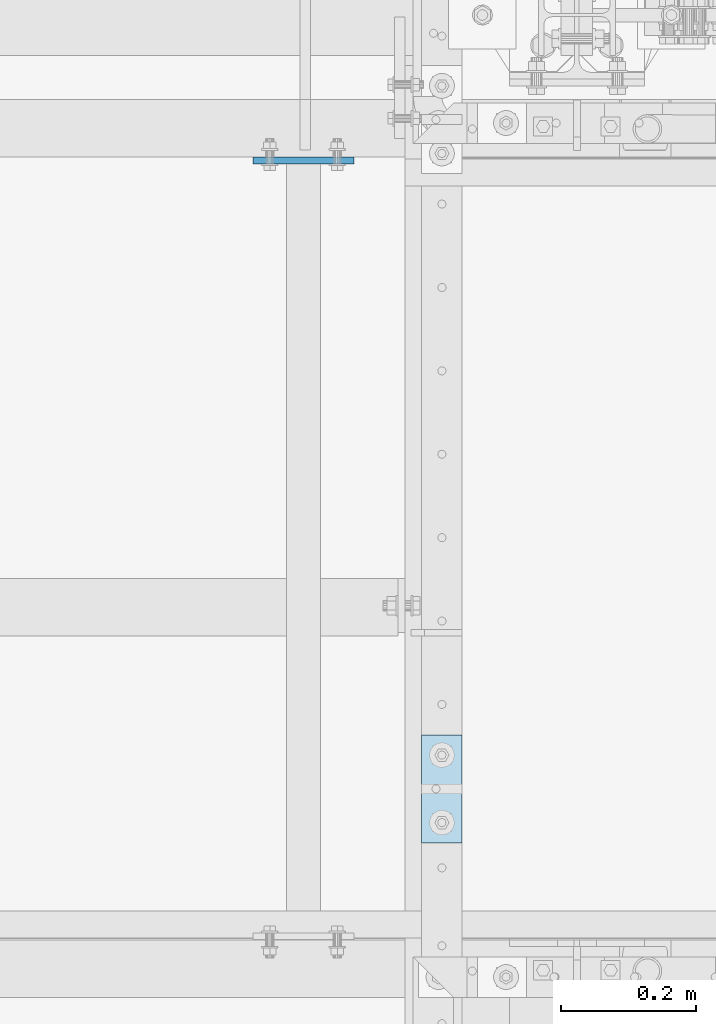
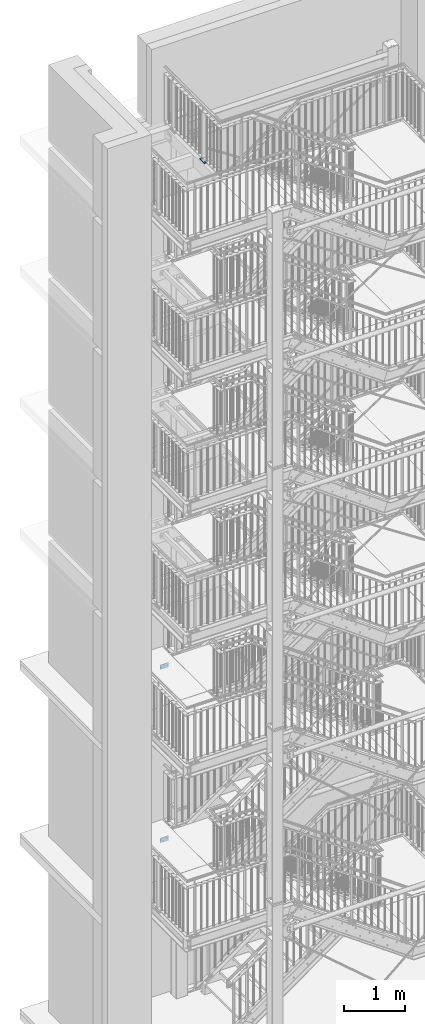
# One storey, part 182 of 831: 3 plates, 10 openings.
"""IFC2X3 building model written with IfcOpenShell, lengths in millimetres."""

from ifc_helpers import new_model, entity, si_unit, converted_unit, point, frame, frame_2d, origin, origin_with_axes, origin_2d_with_axis, place, context, project, spatial, polyline, circle_curve, line_curve, trimmed, segment, composite_curve, circle, outline, extrude, material, layer, layer_set, element, save


model = new_model("IFC2X3")

# Units and contexts
model_context = context("Model", 3, precision=1e-09, world=origin_with_axes())
ifc_project = project(units=[si_unit("LENGTHUNIT", "METRE", prefix="MILLI"), si_unit("AREAUNIT", "SQUARE_METRE"), si_unit("VOLUMEUNIT", "CUBIC_METRE"), converted_unit("PLANEANGLEUNIT", "DEGREE", entity("IfcPlaneAngleMeasure", 0.01745329), si_unit("PLANEANGLEUNIT", "RADIAN"), dimensions=[0, 0, 0, 0, 0, 0, 0])], contexts=[model_context])

# Site, building, storey
site_placement = place(None, origin_with_axes())
site = spatial("IfcSite", under=ifc_project, at=site_placement, Name="Site", CompositionType="ELEMENT")
building_placement = place(site_placement, origin_with_axes())
building = spatial("IfcBuilding", under=site, at=building_placement, Name="Struktur 1", CompositionType="ELEMENT")
storey_placement = place(building_placement, origin_with_axes())
storey = spatial("IfcBuildingStorey", under=building, at=storey_placement, Name="Default Storey", CompositionType="ELEMENT", Elevation=0.0)

# Plate, openings
ifc_material = material(Name="S235JR")
ifc_layer_1 = layer(ifc_material, 10.0)
ifc_layer_set_1 = layer_set([ifc_layer_1], Name="S235JR")
plate_1_placement = place(None, frame((4451.713402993, 7306.236971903, 7220.0), z_axis=(0.0, -1.0, 0.0), x_axis=(1.0, 0.0, 0.0)))
plate_1 = element("IfcPlate", 1, at=plate_1_placement, inside=storey, material=ifc_layer_set_1, Name="-", ObjectType="-", context=model_context, shape_type="SweptSolid", body=[
    extrude(outline(polyline([(-75.0, -45.0), (75.0, -45.0), (75.0, 45.0), (-75.0, 45.0), (-75.0, -45.0)])), origin_with_axes(), (0.0, 0.0, 1.0), 10.0),
])
opening_1_placement = place(plate_1_placement, frame((-10.5, -33.0, -0.5), z_axis=(0.0, 0.0, 1.0), x_axis=(0.0, -1.0, 0.0)))
element("IfcOpeningElement", 2, at=opening_1_placement, cuts=plate_1, ObjectType="Opening", context=model_context, shape_type="SweptSolid", body=[
    extrude(circle(Radius=6.001, at=origin_2d_with_axis()), origin(), (0.0, 0.0, 1.0), 11.0),
])
opening_2_placement = place(plate_1_placement, frame((-10.5, 33.0, -0.5), z_axis=(0.0, 0.0, 1.0), x_axis=(0.0, -1.0, 0.0)))
element("IfcOpeningElement", 3, at=opening_2_placement, cuts=plate_1, ObjectType="Opening", context=model_context, shape_type="SweptSolid", body=[
    extrude(circle(Radius=6.001, at=origin_2d_with_axis()), origin(), (0.0, 0.0, 1.0), 11.0),
])
opening_3_placement = place(plate_1_placement, frame((0.0, 0.0, -0.5), z_axis=(0.0, 0.0, 1.0), x_axis=(1.0, 0.0, 0.0)))
element("IfcOpeningElement", 4, at=opening_3_placement, cuts=plate_1, ObjectType="Opening", context=model_context, shape_type="SweptSolid", body=[
    extrude(circle(Radius=7.001, at=frame_2d((50.0, 0.0), x_axis=(1.0, 0.0))), origin(), (0.0, 0.0, 1.0), 11.0),
])
opening_4_placement = place(plate_1_placement, frame((0.0, 0.0, -0.5), z_axis=(0.0, 0.0, 1.0), x_axis=(1.0, 0.0, 0.0)))
element("IfcOpeningElement", 5, at=opening_4_placement, cuts=plate_1, ObjectType="Opening", context=model_context, shape_type="SweptSolid", body=[
    extrude(circle(Radius=7.001, at=frame_2d((-50.0, 0.0), x_axis=(1.0, 0.0))), origin(), (0.0, 0.0, 1.0), 11.0),
])

plate_2_placement = place(None, frame((4451.713402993, 7306.236971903, 3747.0), z_axis=(0.0, -1.0, 0.0), x_axis=(1.0, 0.0, 0.0)))
plate_2 = element("IfcPlate", 6, at=plate_2_placement, inside=storey, material=ifc_layer_set_1, Name="-", ObjectType="-", context=model_context, shape_type="SweptSolid", body=[
    extrude(outline(polyline([(-75.0, -45.0), (75.0, -45.0), (75.0, 45.0), (-75.0, 45.0), (-75.0, -45.0)])), origin_with_axes(), (0.0, 0.0, 1.0), 10.0),
])
opening_5_placement = place(plate_2_placement, frame((-10.5, -33.0, -0.5), z_axis=(0.0, 0.0, 1.0), x_axis=(0.0, -1.0, 0.0)))
element("IfcOpeningElement", 7, at=opening_5_placement, cuts=plate_2, ObjectType="Opening", context=model_context, shape_type="SweptSolid", body=[
    extrude(circle(Radius=6.001, at=origin_2d_with_axis()), origin(), (0.0, 0.0, 1.0), 11.0),
])
opening_6_placement = place(plate_2_placement, frame((-10.5, 33.0, -0.5), z_axis=(0.0, 0.0, 1.0), x_axis=(0.0, -1.0, 0.0)))
element("IfcOpeningElement", 8, at=opening_6_placement, cuts=plate_2, ObjectType="Opening", context=model_context, shape_type="SweptSolid", body=[
    extrude(circle(Radius=6.001, at=origin_2d_with_axis()), origin(), (0.0, 0.0, 1.0), 11.0),
])
opening_7_placement = place(plate_2_placement, frame((0.0, 0.0, -0.5), z_axis=(0.0, 0.0, 1.0), x_axis=(1.0, 0.0, 0.0)))
element("IfcOpeningElement", 9, at=opening_7_placement, cuts=plate_2, ObjectType="Opening", context=model_context, shape_type="SweptSolid", body=[
    extrude(circle(Radius=7.001, at=frame_2d((50.0, 0.0), x_axis=(1.0, 0.0))), origin(), (0.0, 0.0, 1.0), 11.0),
])
opening_8_placement = place(plate_2_placement, frame((0.0, 0.0, -0.5), z_axis=(0.0, 0.0, 1.0), x_axis=(1.0, 0.0, 0.0)))
element("IfcOpeningElement", 10, at=opening_8_placement, cuts=plate_2, ObjectType="Opening", context=model_context, shape_type="SweptSolid", body=[
    extrude(circle(Radius=7.001, at=frame_2d((-50.0, 0.0), x_axis=(1.0, 0.0))), origin(), (0.0, 0.0, 1.0), 11.0),
])

ifc_layer_2 = layer(ifc_material, 20.0)
ifc_layer_set_2 = layer_set([ifc_layer_2], Name="S235JR")
plate_3_placement = place(None, frame((4626.713402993, 6450.486721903, 17834.0), z_axis=(0.0, 0.0, 1.0), x_axis=(0.0, -1.0, 0.0)))
plate_3 = element("IfcPlate", 11, at=plate_3_placement, inside=storey, material=ifc_layer_set_2, Name="Plate#503", ObjectType="Plate#503", context=model_context, shape_type="SweptSolid", body=[
    extrude(outline(polyline([(0.0, 0.0), (160.0, 0.0), (160.0, 60.0), (0.0, 60.0), (0.0, 0.0)])), origin_with_axes(), (0.0, 0.0, 1.0), 20.0),
])
opening_9_placement = place(plate_3_placement, frame((38.0, 37.001, 20.5), z_axis=(0.0, 0.0, 1.0), x_axis=(-1.0, 0.0, 0.0)))
element("IfcOpeningElement", 12, at=opening_9_placement, cuts=plate_3, ObjectType="Opening", context=model_context, shape_type="SweptSolid", body=[
    extrude(outline(composite_curve([segment(trimmed(line_curve((0.0, 0.0), (1.0, 0.0), 16.0), [point((0.0, 0.0))], [point((16.0, 0.0))], True, "CARTESIAN"), True, "CONTINUOUS"), segment(trimmed(circle_curve(frame_2d((16.0, 7.001), x_axis=(1.0, 0.0)), 7.001), [point((16.0, 0.0))], [point((16.0, 14.002))], True, "CARTESIAN"), True, "CONTINUOUS"), segment(trimmed(line_curve((16.0, 14.002), (-1.0, 0.0), 16.0), [point((16.0, 14.002))], [point((0.0, 14.002))], True, "CARTESIAN"), True, "CONTINUOUS"), segment(trimmed(circle_curve(frame_2d((0.0, 7.001), x_axis=(1.0, 0.0)), 7.001), [point((0.0, 14.002))], [point((0.0, 0.0))], True, "CARTESIAN"), True, "CONTINUOUS")], self_intersect=False)), origin(), (0.0, 0.0, -1.0), 21.0),
])
opening_10_placement = place(plate_3_placement, frame((138.0, 37.001, 20.5), z_axis=(0.0, 0.0, 1.0), x_axis=(-1.0, 0.0, 0.0)))
element("IfcOpeningElement", 13, at=opening_10_placement, cuts=plate_3, ObjectType="Opening", context=model_context, shape_type="SweptSolid", body=[
    extrude(outline(composite_curve([segment(trimmed(line_curve((0.0, 0.0), (1.0, 0.0), 16.0), [point((0.0, 0.0))], [point((16.0, 0.0))], True, "CARTESIAN"), True, "CONTINUOUS"), segment(trimmed(circle_curve(frame_2d((16.0, 7.001), x_axis=(1.0, 0.0)), 7.001), [point((16.0, 0.0))], [point((16.0, 14.002))], True, "CARTESIAN"), True, "CONTINUOUS"), segment(trimmed(line_curve((16.0, 14.002), (-1.0, 0.0), 16.0), [point((16.0, 14.002))], [point((0.0, 14.002))], True, "CARTESIAN"), True, "CONTINUOUS"), segment(trimmed(circle_curve(frame_2d((0.0, 7.001), x_axis=(1.0, 0.0)), 7.001), [point((0.0, 14.002))], [point((0.0, 0.0))], True, "CARTESIAN"), True, "CONTINUOUS")], self_intersect=False)), origin(), (0.0, 0.0, -1.0), 21.0),
])

save(model, "model.ifc")
